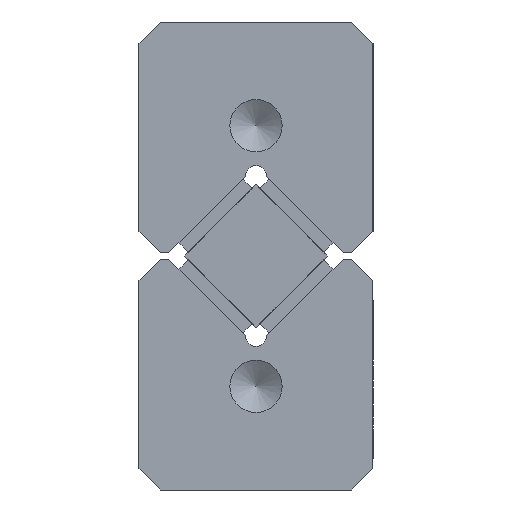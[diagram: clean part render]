
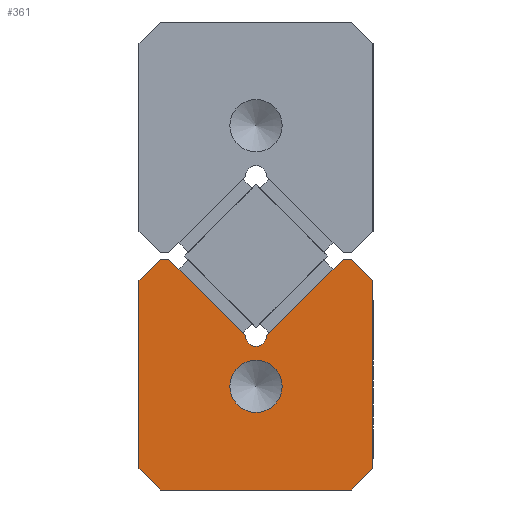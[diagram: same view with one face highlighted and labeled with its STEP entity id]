
A CAD part, left-side view. The second image highlights one B-rep face of the part: STEP entity #361.
In plain terms, the highlighted planar face has unit normal (-1, 0, 0).
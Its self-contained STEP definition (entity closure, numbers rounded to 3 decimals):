
#184=CARTESIAN_POINT('',(0.0,2.459,0.75));
#185=VERTEX_POINT('',#184);
#186=CARTESIAN_POINT('',(0.0,0.,0.75));
#187=DIRECTION('',(1.0,0.0,0.0));
#188=DIRECTION('',(0.0,1.0,0.0));
#189=AXIS2_PLACEMENT_3D('',#186,#187,#188);
#190=CIRCLE('',#189,2.459);
#191=EDGE_CURVE('',#185,#185,#190,.T.);
#214=CARTESIAN_POINT('',(0.0,-11.0,-7.));
#215=VERTEX_POINT('',#214);
#222=CARTESIAN_POINT('',(0.0,-9.0,-9.));
#223=VERTEX_POINT('',#222);
#224=CARTESIAN_POINT('',(0.0,-11.0,-7.));
#225=DIRECTION('',(0.0,0.707,-0.707));
#226=VECTOR('',#225,2.828);
#227=LINE('',#224,#226);
#228=EDGE_CURVE('',#215,#223,#227,.T.);
#245=CARTESIAN_POINT('',(0.0,9.0,-9.));
#246=VERTEX_POINT('',#245);
#247=CARTESIAN_POINT('',(0.0,-9.0,-9.));
#248=DIRECTION('',(0.0,1.0,0.0));
#249=VECTOR('',#248,18.0);
#250=LINE('',#247,#249);
#251=EDGE_CURVE('',#223,#246,#250,.T.);
#270=CARTESIAN_POINT('',(0.0,0.,1.635));
#271=DIRECTION('',(1.0,0.0,0.0));
#272=DIRECTION('',(0.0,0.0,-1.0));
#273=AXIS2_PLACEMENT_3D('',#270,#271,#272);
#274=PLANE('',#273);
#275=ORIENTED_EDGE('',*,*,#228,.F.);
#276=CARTESIAN_POINT('',(0.0,-11.0,10.7));
#277=VERTEX_POINT('',#276);
#278=CARTESIAN_POINT('',(0.0,-11.0,10.7));
#279=DIRECTION('',(0.0,0.0,-1.0));
#280=VECTOR('',#279,17.7);
#281=LINE('',#278,#280);
#282=EDGE_CURVE('',#277,#215,#281,.T.);
#283=ORIENTED_EDGE('',*,*,#282,.F.);
#284=CARTESIAN_POINT('',(0.0,-9.0,12.7));
#285=VERTEX_POINT('',#284);
#286=CARTESIAN_POINT('',(0.0,-9.0,12.7));
#287=DIRECTION('',(0.0,-0.707,-0.707));
#288=VECTOR('',#287,2.828);
#289=LINE('',#286,#288);
#290=EDGE_CURVE('',#285,#277,#289,.T.);
#291=ORIENTED_EDGE('',*,*,#290,.F.);
#292=CARTESIAN_POINT('',(0.0,-8.185,12.7));
#293=VERTEX_POINT('',#292);
#294=CARTESIAN_POINT('',(0.0,-8.185,12.7));
#295=DIRECTION('',(0.0,-1.0,0.0));
#296=VECTOR('',#295,0.815);
#297=LINE('',#294,#296);
#298=EDGE_CURVE('',#293,#285,#297,.T.);
#299=ORIENTED_EDGE('',*,*,#298,.F.);
#300=CARTESIAN_POINT('',(0.0,-1.,5.515));
#301=VERTEX_POINT('',#300);
#302=CARTESIAN_POINT('',(0.0,-1.,5.515));
#303=DIRECTION('',(0.0,-0.707,0.707));
#304=VECTOR('',#303,10.162);
#305=LINE('',#302,#304);
#306=EDGE_CURVE('',#301,#293,#305,.T.);
#307=ORIENTED_EDGE('',*,*,#306,.F.);
#308=CARTESIAN_POINT('',(0.0,1.,5.515));
#309=VERTEX_POINT('',#308);
#310=CARTESIAN_POINT('',(0.0,0.0,5.5));
#311=DIRECTION('',(-1.,0.0,0.0));
#312=DIRECTION('',(0.0,1.,-0.015));
#313=AXIS2_PLACEMENT_3D('',#310,#311,#312);
#314=CIRCLE('',#313,1.);
#315=EDGE_CURVE('',#309,#301,#314,.T.);
#316=ORIENTED_EDGE('',*,*,#315,.F.);
#317=CARTESIAN_POINT('',(0.0,8.185,12.7));
#318=VERTEX_POINT('',#317);
#319=CARTESIAN_POINT('',(0.0,8.185,12.7));
#320=DIRECTION('',(0.0,-0.707,-0.707));
#321=VECTOR('',#320,10.162);
#322=LINE('',#319,#321);
#323=EDGE_CURVE('',#318,#309,#322,.T.);
#324=ORIENTED_EDGE('',*,*,#323,.F.);
#325=CARTESIAN_POINT('',(0.0,9.,12.7));
#326=VERTEX_POINT('',#325);
#327=CARTESIAN_POINT('',(0.0,9.,12.7));
#328=DIRECTION('',(0.0,-1.0,0.0));
#329=VECTOR('',#328,0.815);
#330=LINE('',#327,#329);
#331=EDGE_CURVE('',#326,#318,#330,.T.);
#332=ORIENTED_EDGE('',*,*,#331,.F.);
#333=CARTESIAN_POINT('',(0.0,11.0,10.7));
#334=VERTEX_POINT('',#333);
#335=CARTESIAN_POINT('',(0.0,11.0,10.7));
#336=DIRECTION('',(0.0,-0.707,0.707));
#337=VECTOR('',#336,2.828);
#338=LINE('',#335,#337);
#339=EDGE_CURVE('',#334,#326,#338,.T.);
#340=ORIENTED_EDGE('',*,*,#339,.F.);
#341=CARTESIAN_POINT('',(0.0,11.0,-7.));
#342=VERTEX_POINT('',#341);
#343=CARTESIAN_POINT('',(0.0,11.0,-7.));
#344=DIRECTION('',(0.0,0.0,1.0));
#345=VECTOR('',#344,17.7);
#346=LINE('',#343,#345);
#347=EDGE_CURVE('',#342,#334,#346,.T.);
#348=ORIENTED_EDGE('',*,*,#347,.F.);
#349=CARTESIAN_POINT('',(0.0,9.0,-9.));
#350=DIRECTION('',(0.0,0.707,0.707));
#351=VECTOR('',#350,2.828);
#352=LINE('',#349,#351);
#353=EDGE_CURVE('',#246,#342,#352,.T.);
#354=ORIENTED_EDGE('',*,*,#353,.F.);
#355=ORIENTED_EDGE('',*,*,#251,.F.);
#356=EDGE_LOOP('',(#275,#283,#291,#299,#307,#316,#324,#332,#340,#348,#354,#355));
#357=FACE_OUTER_BOUND('',#356,.T.);
#358=ORIENTED_EDGE('',*,*,#191,.T.);
#359=EDGE_LOOP('',(#358));
#360=FACE_BOUND('',#359,.T.);
#361=ADVANCED_FACE('',(#357,#360),#274,.F.);
